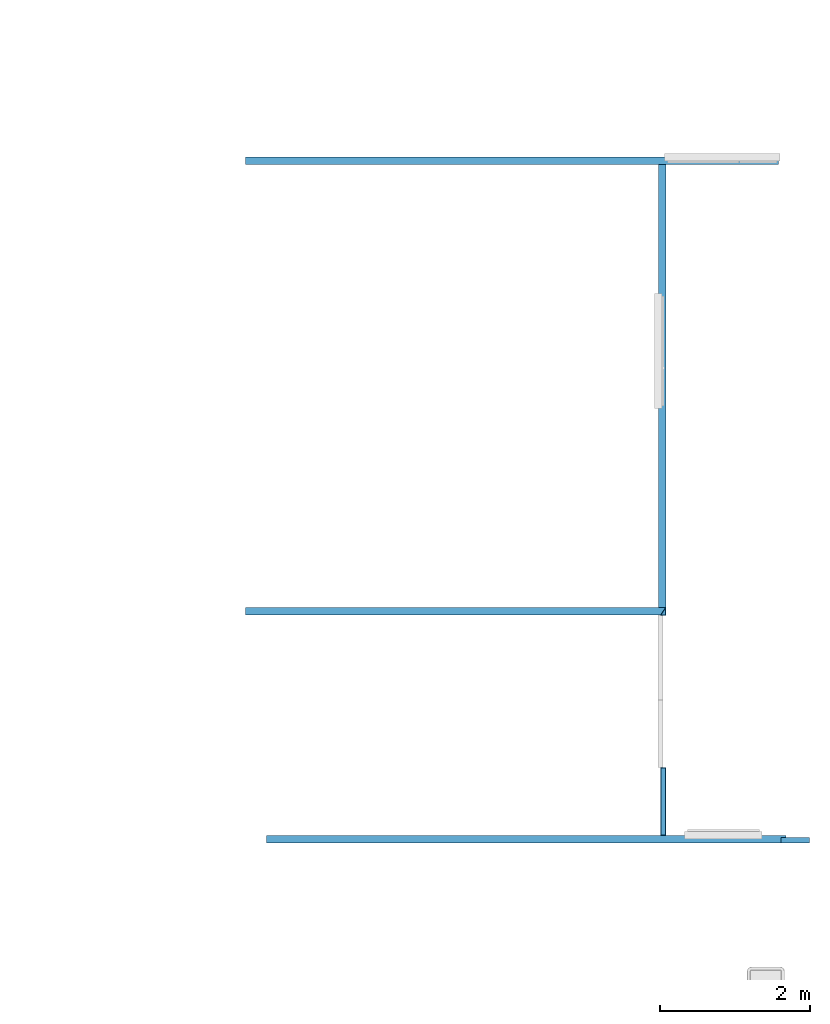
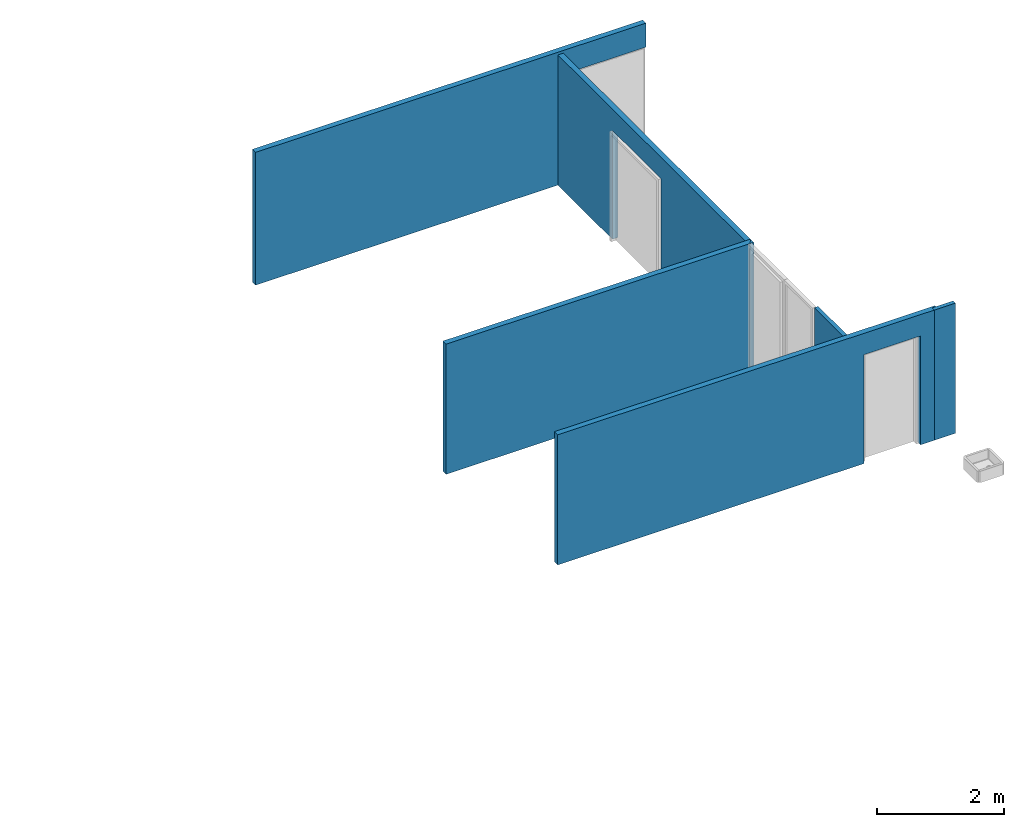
# One storey, part 19 of 51: 6 walls, 3 openings.
"""IFC2X3 building model written with IfcOpenShell, lengths in metres."""

from ifc_helpers import new_model, entity, si_unit, converted_unit, derived_unit, direction, frame, frame_2d, origin, place, context, subcontext, project, spatial, polyline, rectangle, outline, extrude, material, layer, layer_set, layer_usage, type_object, element, save


model = new_model("IFC2X3")

# Units and contexts
model_context = context("Model", 3, precision=1e-05, world=origin(), true_north=direction((6.123031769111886e-17, 1.0)))
body_context = subcontext(model_context, "Body", "Model", "MODEL_VIEW")
ifc_project = project(units=[si_unit("LENGTHUNIT", "METRE"), si_unit("AREAUNIT", "SQUARE_METRE"), si_unit("VOLUMEUNIT", "CUBIC_METRE"), converted_unit("PLANEANGLEUNIT", "DEGREE", entity("IfcRatioMeasure", 0.017453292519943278), si_unit("PLANEANGLEUNIT", "RADIAN"), dimensions=[0, 0, 0, 0, 0, 0, 0]), si_unit("MASSUNIT", "GRAM", prefix="KILO"), derived_unit("MASSDENSITYUNIT", [(si_unit("MASSUNIT", "GRAM", prefix="KILO"), 1), (si_unit("LENGTHUNIT", "METRE"), -3)]), derived_unit("MOMENTOFINERTIAUNIT", [(si_unit("LENGTHUNIT", "METRE"), 4)]), si_unit("TIMEUNIT", "SECOND"), si_unit("FREQUENCYUNIT", "HERTZ"), si_unit("THERMODYNAMICTEMPERATUREUNIT", "DEGREE_CELSIUS"), derived_unit("THERMALTRANSMITTANCEUNIT", [(si_unit("MASSUNIT", "GRAM", prefix="KILO"), 1), (si_unit("THERMODYNAMICTEMPERATUREUNIT", "KELVIN"), -1), (si_unit("TIMEUNIT", "SECOND"), -3)]), derived_unit("THERMALCONDUCTANCEUNIT", [(si_unit("MASSUNIT", "GRAM", prefix="KILO"), 1), (si_unit("LENGTHUNIT", "METRE"), 1), (si_unit("THERMODYNAMICTEMPERATUREUNIT", "KELVIN"), -1), (si_unit("TIMEUNIT", "SECOND"), -3)]), derived_unit("VOLUMETRICFLOWRATEUNIT", [(si_unit("LENGTHUNIT", "METRE"), 3), (si_unit("TIMEUNIT", "SECOND"), -1)]), derived_unit("MASSFLOWRATEUNIT", [(si_unit("MASSUNIT", "GRAM", prefix="KILO"), 1), (si_unit("TIMEUNIT", "SECOND"), -1)]), derived_unit("ROTATIONALFREQUENCYUNIT", [(si_unit("TIMEUNIT", "SECOND"), -1)]), si_unit("ELECTRICCURRENTUNIT", "AMPERE"), si_unit("ELECTRICVOLTAGEUNIT", "VOLT"), si_unit("POWERUNIT", "WATT"), si_unit("FORCEUNIT", "NEWTON", prefix="KILO"), si_unit("ILLUMINANCEUNIT", "LUX"), si_unit("LUMINOUSFLUXUNIT", "LUMEN"), si_unit("LUMINOUSINTENSITYUNIT", "CANDELA"), derived_unit("USERDEFINED", [(si_unit("MASSUNIT", "GRAM", prefix="KILO"), -1), (si_unit("LENGTHUNIT", "METRE"), -2), (si_unit("TIMEUNIT", "SECOND"), 3), (si_unit("LUMINOUSFLUXUNIT", "LUMEN"), 1)]), derived_unit("USERDEFINED", [(si_unit("MASSUNIT", "GRAM", prefix="KILO"), 1), (si_unit("LENGTHUNIT", "METRE"), 3), (si_unit("TIMEUNIT", "SECOND"), -3), (si_unit("ELECTRICCURRENTUNIT", "AMPERE"), -2)]), derived_unit("USERDEFINED", [(si_unit("LENGTHUNIT", "METRE"), 2), (si_unit("TIMEUNIT", "SECOND"), -2)]), derived_unit("SOUNDPOWERUNIT", [(si_unit("MASSUNIT", "GRAM", prefix="KILO"), 1), (si_unit("LENGTHUNIT", "METRE"), 2), (si_unit("TIMEUNIT", "SECOND"), -3)]), derived_unit("SOUNDPRESSUREUNIT", [(si_unit("MASSUNIT", "GRAM", prefix="KILO"), 1), (si_unit("LENGTHUNIT", "METRE"), -1), (si_unit("TIMEUNIT", "SECOND"), -2)]), derived_unit("LINEARVELOCITYUNIT", [(si_unit("LENGTHUNIT", "METRE"), 1), (si_unit("TIMEUNIT", "SECOND"), -1)]), si_unit("PRESSUREUNIT", "PASCAL"), derived_unit("USERDEFINED", [(si_unit("LENGTHUNIT", "METRE"), -2), (si_unit("MASSUNIT", "GRAM", prefix="KILO"), 1), (si_unit("TIMEUNIT", "SECOND"), -2)]), derived_unit("LINEARFORCEUNIT", [(si_unit("MASSUNIT", "GRAM", prefix="KILO"), 1), (si_unit("LENGTHUNIT", "METRE"), 1), (si_unit("TIMEUNIT", "SECOND"), -2), (si_unit("LENGTHUNIT", "METRE"), -1)]), derived_unit("PLANARFORCEUNIT", [(si_unit("MASSUNIT", "GRAM", prefix="KILO"), 1), (si_unit("LENGTHUNIT", "METRE"), 1), (si_unit("TIMEUNIT", "SECOND"), -2), (si_unit("LENGTHUNIT", "METRE"), -2)]), derived_unit("SPECIFICHEATCAPACITYUNIT", [(si_unit("LENGTHUNIT", "METRE"), 2), (si_unit("TIMEUNIT", "SECOND"), -2), (si_unit("THERMODYNAMICTEMPERATUREUNIT", "KELVIN"), -1)]), derived_unit("VAPORPERMEABILITYUNIT", [(si_unit("TIMEUNIT", "SECOND"), 1), (si_unit("LENGTHUNIT", "METRE"), -1)]), derived_unit("DYNAMICVISCOSITYUNIT", [(si_unit("MASSUNIT", "GRAM", prefix="KILO"), 1), (si_unit("LENGTHUNIT", "METRE"), -1), (si_unit("TIMEUNIT", "SECOND"), -1)]), derived_unit("THERMALEXPANSIONCOEFFICIENTUNIT", [(si_unit("THERMODYNAMICTEMPERATUREUNIT", "KELVIN"), -1)])], contexts=[model_context])

# Site, building, storey
site_placement = place(None, origin())
site = spatial("IfcSite", under=ifc_project, at=site_placement, Name="Default", CompositionType="ELEMENT")
building_placement = place(site_placement, origin())
building = spatial("IfcBuilding", under=site, at=building_placement, CompositionType="ELEMENT")
storey_placement = place(building_placement, frame((0.0, 0.0, 3.06)))
storey = spatial("IfcBuildingStorey", under=building, at=storey_placement, Name="ÉTAGE", CompositionType="ELEMENT", Elevation=3.06)

# Walls
ifc_material_1 = material(Name="Plâtre - Plaques de plâtre")
ifc_layer_1 = layer(ifc_material_1, 0.013)
ifc_material_2 = material(Name="Isolation - Fibre de verre")
ifc_layer_2 = layer(ifc_material_2, 0.044)
ifc_layer_3 = layer(ifc_material_1, 0.013)
ifc_layer_set_1 = layer_set([ifc_layer_1, ifc_layer_2, ifc_layer_3], Name="Mur de base:ABA cloison 7cm 70")
wall_type_1 = type_object("IfcWallType", Name="Mur de base:ABA cloison 7cm 70", PredefinedType="STANDARD", material=ifc_layer_set_1)
wall_1_placement = place(storey_placement, frame((346.95575226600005, 14.037209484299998, 1.2099999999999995), z_axis=(0.0, 0.0, 1.0), x_axis=(0.0, -1.0, 0.0)))
element("IfcWallStandardCase", 1, at=wall_1_placement, inside=storey, type_object=wall_type_1, Name="MurExt-017", ObjectType="Mur de base:ABA cloison 7cm 70", context=body_context, shape_type="SweptSolid", body=[
    extrude(rectangle(XDim=0.9000000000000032, YDim=0.07000000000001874, at=frame_2d((-0.09000000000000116, -0.00013999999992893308), x_axis=(1.0, 0.0))), frame((2.4899999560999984, -0.00013999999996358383, 0.0), z_axis=(0.0, 0.0, 1.0), x_axis=(-1.0, 0.0, 0.0)), (0.0, 0.0, 1.0), 2.499999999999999),
    extrude(outline(polyline([(-0.009275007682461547, -0.02499998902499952), (0.026424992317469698, -0.02499998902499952), (0.026424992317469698, 0.07499996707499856), (-0.04357497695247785, -0.02499998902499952), (-0.009275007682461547, -0.02499998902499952)])), frame((0.07499996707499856, 0.00857500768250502, 0.0), z_axis=(0.0, 0.0, 1.0), x_axis=(0.0, 1.0, 0.0)), (0.0, 0.0, 1.0), 2.499999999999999),
])
ifc_layer_usage_1 = layer_usage(ifc_layer_set_1, "AXIS2", "NEGATIVE", 0.034999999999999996)
wall_2_placement = place(storey_placement, frame((348.90075231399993, 10.9422095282, 1.2099999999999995), z_axis=(0.0, 0.0, 1.0), x_axis=(-1.0, 0.0, 0.0)))
element("IfcWallStandardCase", 2, at=wall_2_placement, inside=storey, type_object=wall_type_1, material=ifc_layer_usage_1, Name="MurExt-018", ObjectType="Mur de base:ABA cloison 7cm 70", context=body_context, shape_type="SweptSolid", body=[
    extrude(rectangle(XDim=0.38000003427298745, YDim=0.07000000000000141, at=frame_2d((0.19000001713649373, 0.0), x_axis=(-1.0, 0.0))), origin(), (0.0, 0.0, 1.0), 2.499999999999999),
])

# Wall, opening
ifc_layer_4 = layer(ifc_material_1, 0.013)
ifc_layer_5 = layer(ifc_material_1, 0.013)
ifc_layer_6 = layer(ifc_material_2, 0.048)
ifc_layer_7 = layer(ifc_material_1, 0.013)
ifc_layer_8 = layer(ifc_material_1, 0.013)
ifc_layer_set_2 = layer_set([ifc_layer_4, ifc_layer_5, ifc_layer_6, ifc_layer_7, ifc_layer_8], Name="Mur de base:ABA cloison 10cm 100")
ifc_layer_usage_2 = layer_usage(ifc_layer_set_2, "AXIS2", "NEGATIVE", 0.05)
wall_type_2 = type_object("IfcWallType", Name="Mur de base:ABA cloison 10cm 100", PredefinedType="STANDARD", material=ifc_layer_set_2)
wall_3_placement = place(storey_placement, frame((348.49075224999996, 19.9772094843, 1.21), z_axis=(0.0, 0.0, 1.0), x_axis=(-1.0, 0.0, 0.0)))
wall_3 = element("IfcWallStandardCase", 3, at=wall_3_placement, inside=storey, type_object=wall_type_2, material=ifc_layer_usage_2, Name="MurExt-016", ObjectType="Mur de base:ABA cloison 10cm 100", context=body_context, shape_type="SweptSolid", body=[
    extrude(rectangle(XDim=7.089999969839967, YDim=0.10000000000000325, at=frame_2d((3.5449999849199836, 0.0), x_axis=(-1.0, 0.0))), origin(), (0.0, 0.0, 1.0), 2.5500000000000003),
])
opening_1_placement = place(wall_3_placement, frame((348.49075224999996, 19.9772094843, -1.2099999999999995), z_axis=(0.0, 0.0, 1.0), x_axis=(-1.0, 0.0, 0.0)))
element("IfcOpeningElement", 4, at=opening_1_placement, cuts=wall_3, Name="MurExt-016", ObjectType="Opening", context=body_context, shape_type="SweptSolid", body=[
    extrude(rectangle(XDim=2.089999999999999, YDim=1.5300000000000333, at=frame_2d((0.0, -3.4638958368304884e-14), x_axis=(1.0, 0.0))), frame((347.74075226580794, 20.0792094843, 2.254999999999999), z_axis=(0.0, -1.0, 0.0), x_axis=(0.0, 0.0, 1.0)), (0.0, 0.0, 1.0), 0.20399999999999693),
])

wall_4_placement = place(storey_placement, frame((348.59075228, 10.957209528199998, 1.2099999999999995), z_axis=(0.0, 0.0, 1.0), x_axis=(-1.0, 0.0, 0.0)))
wall_4 = element("IfcWallStandardCase", 5, at=wall_4_placement, inside=storey, type_object=wall_type_2, material=ifc_layer_usage_2, Name="MurExt-018", ObjectType="Mur de base:ABA cloison 10cm 100", context=body_context, shape_type="SweptSolid", body=[
    extrude(rectangle(XDim=6.909999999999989, YDim=0.09999999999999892, at=frame_2d((3.4549999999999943, 0.0), x_axis=(1.0, 0.0))), origin(), (0.0, 0.0, 1.0), 2.499999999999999),
])
opening_2_placement = place(wall_4_placement, frame((348.59075228, 10.957209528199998, -1.2099999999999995), z_axis=(0.0, 0.0, 1.0), x_axis=(-1.0, 0.0, 0.0)))
element("IfcOpeningElement", 6, at=opening_2_placement, cuts=wall_4, Name="MurExt-018", ObjectType="Opening", context=body_context, shape_type="SweptSolid", body=[
    extrude(rectangle(XDim=2.089999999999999, YDim=1.0300000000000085, at=frame_2d((0.0, 0.0), x_axis=(0.0, 1.0))), frame((347.75575228, 11.059209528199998, 2.254999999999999), z_axis=(0.0, -1.0, 0.0), x_axis=(1.0, 0.0, 0.0)), (0.0, 0.0, 1.0), 0.20400000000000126),
])

# Wall
wall_5_placement = place(storey_placement, frame((346.990752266, 13.9872094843, 1.2099999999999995), z_axis=(0.0, 0.0, 1.0), x_axis=(-1.0, 0.0, 0.0)))
element("IfcWallStandardCase", 7, at=wall_5_placement, inside=storey, type_object=wall_type_2, material=ifc_layer_usage_2, Name="MurExt-019", ObjectType="Mur de base:ABA cloison 10cm 100", context=body_context, shape_type="SweptSolid", body=[
    extrude(outline(polyline([(5.58999998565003, -0.050000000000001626), (5.58999998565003, 0.04999999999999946), (0.06999999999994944, 0.04999999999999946), (0.0, -0.050000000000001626), (0.09999999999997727, -0.050000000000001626), (5.58999998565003, -0.050000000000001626)])), origin(), (0.0, 0.0, 1.0), 2.499999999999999),
])

# Wall, opening
wall_6_placement = place(storey_placement, frame((346.94075226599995, 19.9272094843, 1.2099999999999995), z_axis=(0.0, 0.0, 1.0), x_axis=(0.0, -1.0, 0.0)))
wall_6 = element("IfcWallStandardCase", 8, at=wall_6_placement, inside=storey, type_object=wall_type_2, material=ifc_layer_usage_2, Name="MurExt-017", ObjectType="Mur de base:ABA cloison 10cm 100", context=body_context, shape_type="SweptSolid", body=[
    extrude(rectangle(XDim=5.89, YDim=0.10000000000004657, at=frame_2d((2.945, 0.0), x_axis=(-1.0, 0.0))), origin(), (0.0, 0.0, 1.0), 2.499999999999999),
])
opening_3_placement = place(wall_6_placement, frame((19.9272094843, -346.94075226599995, -1.2099999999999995), z_axis=(0.0, 0.0, 1.0), x_axis=(0.0, 1.0, 0.0)))
element("IfcOpeningElement", 9, at=opening_3_placement, cuts=wall_6, Name="MurExt-017", ObjectType="Opening", context=body_context, shape_type="SweptSolid", body=[
    extrude(rectangle(XDim=2.09, YDim=1.530000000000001, at=frame_2d((-1.1102230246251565e-15, 3.3306690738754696e-16), x_axis=(0.0, 1.0))), frame((346.838752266, 17.44720955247, 2.254999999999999), z_axis=(1.0, 0.0, 0.0), x_axis=(0.0, -1.0, 0.0)), (0.0, 0.0, 1.0), 0.20400000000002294),
])

save(model, "model.ifc")
